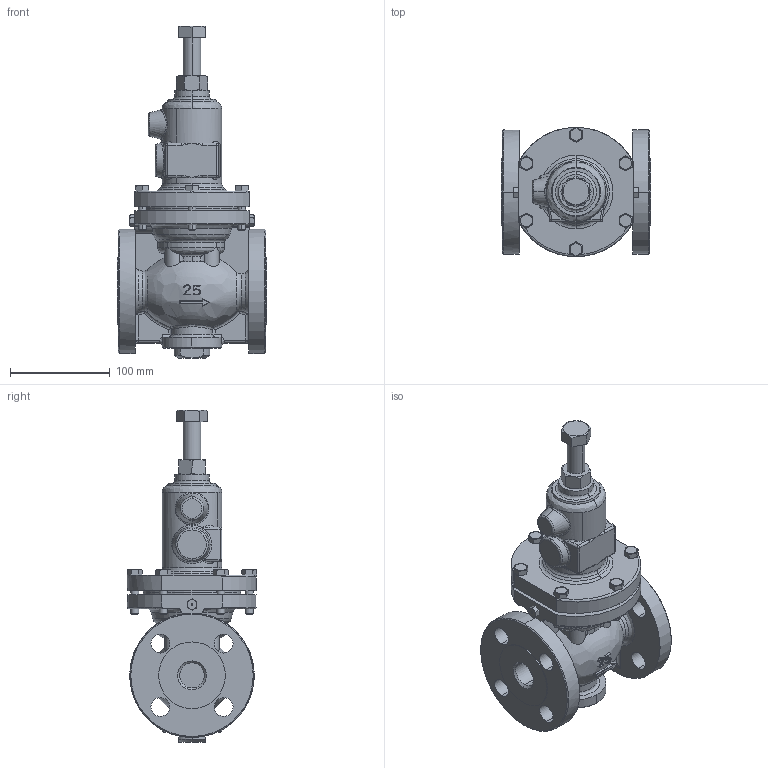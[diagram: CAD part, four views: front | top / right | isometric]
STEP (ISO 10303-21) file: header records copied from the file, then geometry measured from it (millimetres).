
FILE_DESCRIPTION( (''), '2;1');
FILE_NAME ('PC1276.13840.GD-200H 25A_11548.stp','2026-01-15T15:41:11',(''),(''),'spGate 20.6.3 (****-****-****-****)','','');
FILE_SCHEMA (('AUTOMOTIVE_DESIGN'));
Length unit declared in the file: millimetre
Products named in the file (4): Assembly; GD200(25)本体P; GD200保護筒15A25A; CP_''_JIS B 1181 六角ナット 2種 上 ''_700
Assembly tree (3 placements, depth 2):
  Assembly
    GD200(25)本体P
    GD200保護筒15A25A
    CP_''_JIS B 1181 六角ナット 2種 上 ''_700
Bounding box: 150 x 130.01 x 333.61 mm (x, y, z)
Volume: 1674454.7 mm3; surface area: 201813.7 mm2
Topology: 3 solids, 3 shells, 509 faces, 1302 edges, 812 vertices
Faces by surface type: bspline 186, plane 161, cylinder 156, sphere 6
Entity records: 32945 total; most frequent: CARTESIAN_POINT 12136, ORIENTED_EDGE 2576, COLOUR_RGB 1800, PRESENTATION_STYLE_ASSIGNMENT 1800, STYLED_ITEM 1800, DIRECTION 1794, EDGE_CURVE 1288, DRAUGHTING_PRE_DEFINED_CURVE_FONT 1288
